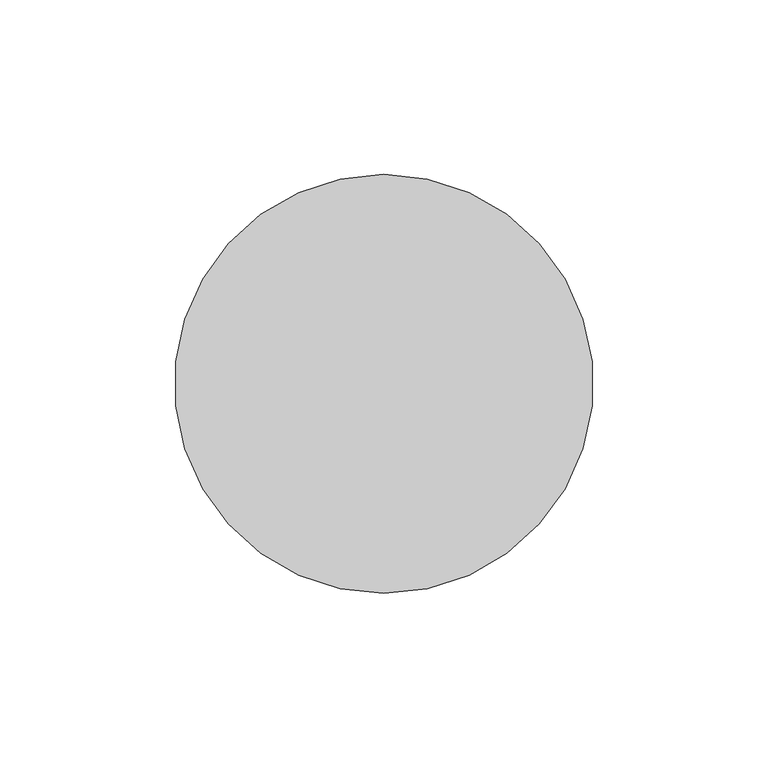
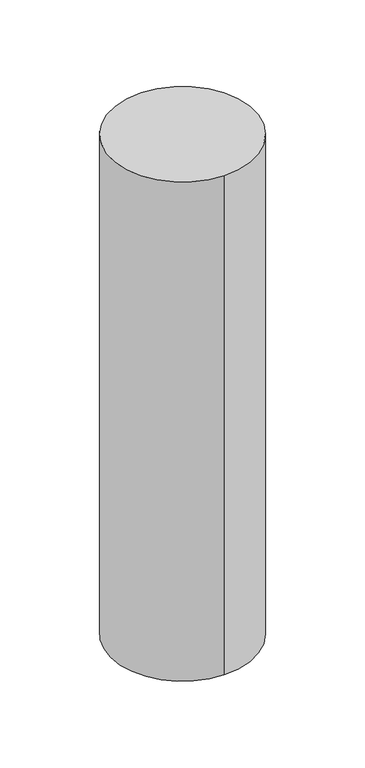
"""IFC4 building model written with IfcOpenShell, lengths in millimetres: proxy geometry, DMS-BWIC Family : BWIC_Circle."""

from ifc_helpers import new_model, si_unit, point, frame, origin, origin_2d, place, context, project, spatial, circle_curve, trimmed, segment, composite_curve, outline, extrude, source, transform, mapped, element, save


def generic_models_59290440(model_context):
    return source(origin(), model_context, "Body", "SweptSolid", [
        extrude(outline(composite_curve([segment(trimmed(circle_curve(origin_2d(), 60.0), [point((0.0, 60.0))], [point((0.0, -60.0))], False, "CARTESIAN"), True, "CONTINUOUS"), segment(trimmed(circle_curve(origin_2d(), 60.0), [point((0.0, -60.0))], [point((0.0, 60.0))], False, "CARTESIAN"), True, "CONTINUOUS")], self_intersect=False)), frame((0.0, 0.0, -440.0), z_axis=(0.0, 0.0, 1.0), x_axis=(1.0, 0.0, 0.0)), (0.0, 0.0, 1.0), 440.0),
        extrude(outline(composite_curve([segment(trimmed(circle_curve(origin_2d(), 60.0), [point((0.0, 60.0))], [point((0.0, -60.0))], False, "CARTESIAN"), True, "CONTINUOUS"), segment(trimmed(circle_curve(origin_2d(), 60.0), [point((0.0, -60.0))], [point((0.0, 60.0))], False, "CARTESIAN"), True, "CONTINUOUS")], self_intersect=False)), frame((0.0, 0.0, -440.0), z_axis=(0.0, 0.0, 1.0), x_axis=(1.0, 0.0, 0.0)), (0.0, 0.0, 1.0), 440.0),
    ])


if __name__ == "__main__":
    model = new_model("IFC4")
    model_context = context("Model", 3, world=origin())
    ifc_project = project(units=[si_unit("LENGTHUNIT", "METRE", prefix="MILLI")], contexts=[model_context])
    site = spatial("IfcSite", under=ifc_project)
    building = spatial("IfcBuilding", under=site)
    placement = place(None, origin())
    generic_models_shape = generic_models_59290440(model_context)
    element("IfcBuildingElementProxy", 1, Name="DMS-BWIC Family : BWIC_Circle", ObjectType="DMS-BWIC Family : BWIC_Circle", at=placement, inside=building, context=model_context, shape_type="MappedRepresentation", body=[
        mapped(generic_models_shape, transform((0.0, 0.0, 0.0), x_axis=(1.0, 0.0, 0.0), y_axis=(0.0, 1.0, 0.0), z_axis=(0.0, 0.0, 1.0))),
    ])
    save(model, "model.ifc")
